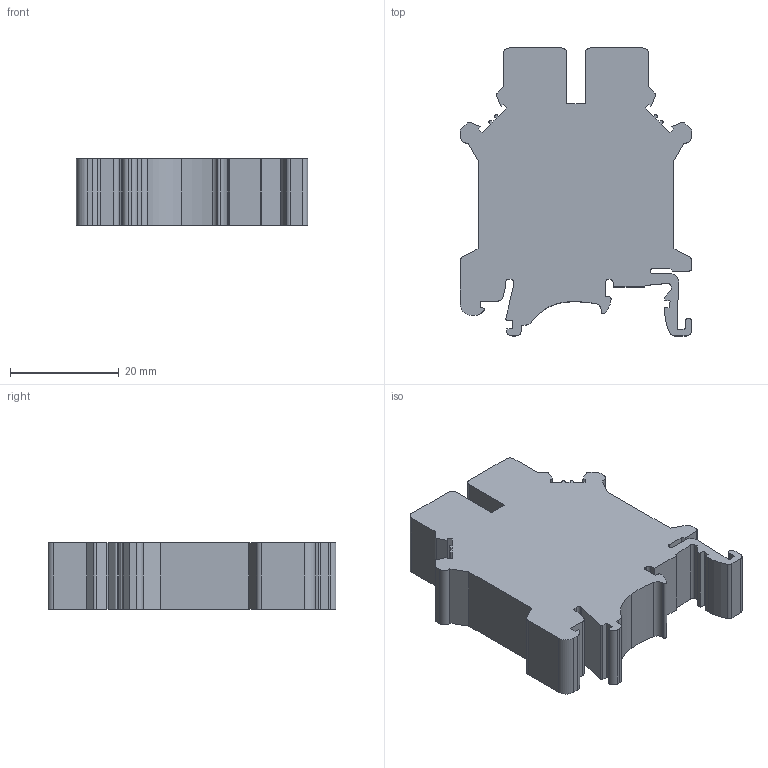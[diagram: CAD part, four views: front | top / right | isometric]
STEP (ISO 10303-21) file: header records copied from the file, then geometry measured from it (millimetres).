
FILE_DESCRIPTION(/* description */ (''),/* implementation_level */ '2;1');
FILE_NAME(/* name */ 'UT1-16.stp',/* time_stamp */ '2023-02-14T13:55:23+08:00',/* author */ (''),/* organization */ (''),/* preprocessor_version */ 'ST-DEVELOPER v16.7',/* originating_system */ 'SIEMENS PLM Software NX 12.0',/* authorisation */ '');
FILE_SCHEMA (('AP203_CONFIGURATION_CONTROLLED_3D_DESIGN_OF_MECHANICAL_PARTS_AND_ASSEMBLIES_MIM_LF { 1 0 10303 403 2 1 2}'));
Length unit declared in the file: millimetre
Products named in the file (1): Admi01CC23451nmx
Bounding box: 42.5 x 52.9 x 12.2 mm (x, y, z)
Volume: 19570.9 mm3; surface area: 6636.6 mm2
Topology: 1 solids, 1 shells, 136 faces, 402 edges, 268 vertices
Faces by surface type: plane 92, cylinder 44
Entity records: 4636 total; most frequent: CARTESIAN_POINT 807, ORIENTED_EDGE 804, DIRECTION 764, EDGE_CURVE 402, LINE 314, VECTOR 314, VERTEX_POINT 268, AXIS2_PLACEMENT_3D 225
